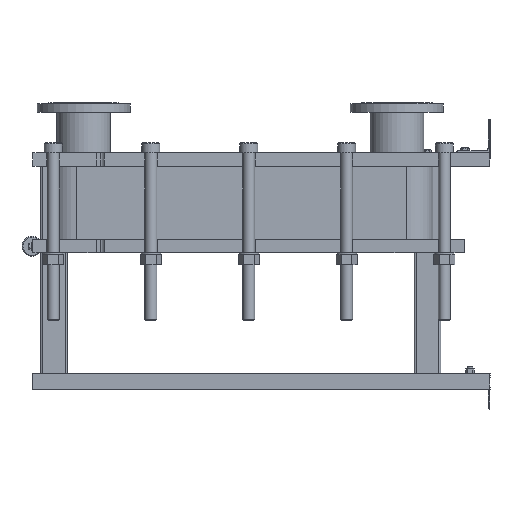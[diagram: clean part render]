
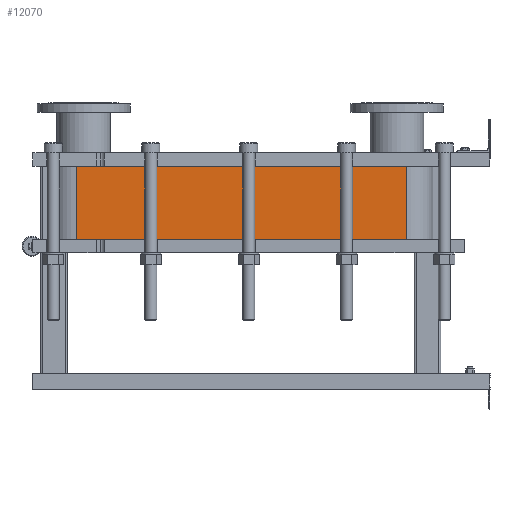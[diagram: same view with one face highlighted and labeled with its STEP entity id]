
A CAD part, left-side view. The second image highlights one B-rep face of the part: STEP entity #12070.
In plain terms, the highlighted planar face has unit normal (-1, 0, 0).
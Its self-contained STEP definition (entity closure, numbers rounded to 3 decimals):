
#1064=LINE('',#21140,#2164);
#1065=LINE('',#21144,#2165);
#1066=LINE('',#21146,#2166);
#1067=LINE('',#21147,#2167);
#2164=VECTOR('',#15790,10.);
#2165=VECTOR('',#15795,10.);
#2166=VECTOR('',#15796,10.);
#2167=VECTOR('',#15797,10.);
#3304=FACE_OUTER_BOUND('',#4091,.T.);
#4091=EDGE_LOOP('',(#9793,#9794,#9795,#9796));
#5677=VERTEX_POINT('',#21137);
#5678=VERTEX_POINT('',#21139);
#5679=VERTEX_POINT('',#21143);
#5680=VERTEX_POINT('',#21145);
#7118=EDGE_CURVE('',#5678,#5677,#1064,.T.);
#7120=EDGE_CURVE('',#5677,#5679,#1065,.T.);
#7121=EDGE_CURVE('',#5680,#5679,#1066,.T.);
#7122=EDGE_CURVE('',#5680,#5678,#1067,.T.);
#9793=ORIENTED_EDGE('',*,*,#7120,.T.);
#9794=ORIENTED_EDGE('',*,*,#7121,.F.);
#9795=ORIENTED_EDGE('',*,*,#7122,.T.);
#9796=ORIENTED_EDGE('',*,*,#7118,.T.);
#11441=PLANE('',#13191);
#12070=ADVANCED_FACE('',(#3304),#11441,.T.);
#13191=AXIS2_PLACEMENT_3D('',#21142,#15793,#15794);
#15790=DIRECTION('',(0.,0.,-1.));
#15793=DIRECTION('center_axis',(-1.,0.,0.));
#15794=DIRECTION('ref_axis',(0.,1.,0.));
#15795=DIRECTION('',(0.,-1.,0.));
#15796=DIRECTION('',(0.,0.,-1.));
#15797=DIRECTION('',(0.,1.,0.));
#21137=CARTESIAN_POINT('',(-248.152,1243.818,-220.8));
#21139=CARTESIAN_POINT('',(-248.152,1243.818,0.));
#21140=CARTESIAN_POINT('',(-248.152,1243.818,0.));
#21142=CARTESIAN_POINT('Origin',(-248.152,251.818,0.));
#21143=CARTESIAN_POINT('',(-248.152,251.818,-220.8));
#21144=CARTESIAN_POINT('',(-248.152,499.818,-220.8));
#21145=CARTESIAN_POINT('',(-248.152,251.818,0.));
#21146=CARTESIAN_POINT('',(-248.152,251.818,0.));
#21147=CARTESIAN_POINT('',(-248.152,251.818,0.));
